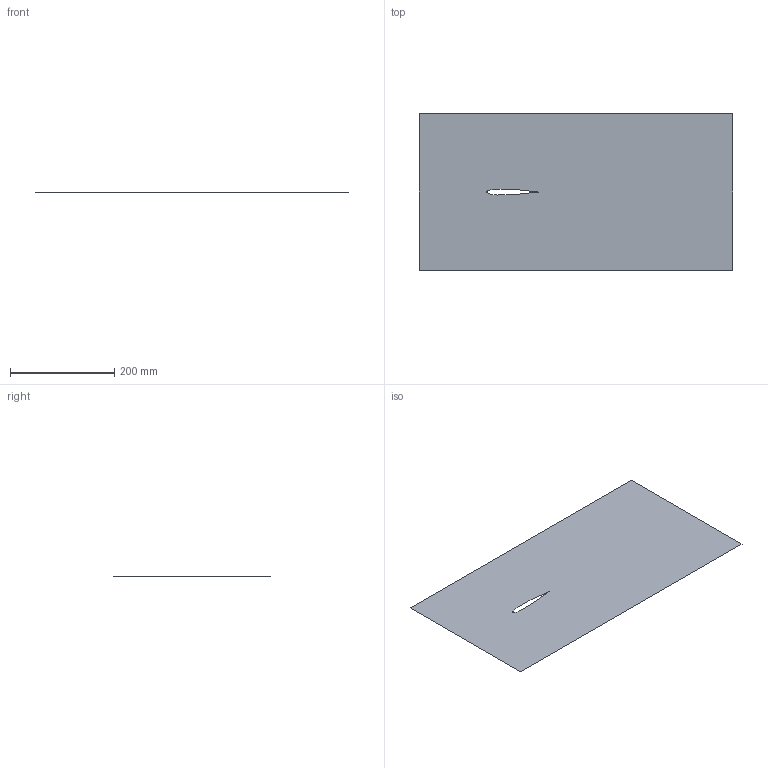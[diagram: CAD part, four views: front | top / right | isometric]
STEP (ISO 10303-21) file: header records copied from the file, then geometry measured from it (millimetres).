
FILE_DESCRIPTION(/* description */ ('STEP AP242','CAx-IF Rec.Pracs.---Representation and Presentation of Product Manufacturing Information (PMI)---4.0---2014-10-13','CAx-IF Rec.Pracs.---3D Tessellated Geometry---0.4---2014-09-14','2;1'),/* implementation_level */ '2;1');
FILE_NAME(/* name */ '64e1f16ce70e580f31912a3e',/* time_stamp */ '2023-08-20T10:56:45Z',/* author */ (''),/* organization */ (''),/* preprocessor_version */ 'ST-DEVELOPER v19.4',/* originating_system */ ' ',/* authorisation */ ' ');
FILE_SCHEMA (('AP242_MANAGED_MODEL_BASED_3D_ENGINEERING_MIM_LF { 1 0 10303 442 1 1 4 }'));
Length unit declared in the file: metre
Products named in the file (1): 2D-Airfoil
Bounding box: 600 x 300 x 0 mm (x, y, z)
Surface area: 179181 mm2 (no closed solid volume)
Topology: 0 solids, 1 shells, 1 faces, 6 edges, 6 vertices
Faces by surface type: plane 1
Entity records: 170 total; most frequent: CARTESIAN_POINT 100, DIRECTION 8, ORIENTED_EDGE 6, EDGE_CURVE 6, VERTEX_POINT 6, LINE 4, VECTOR 4, B_SPLINE_CURVE_WITH_KNOTS 2
